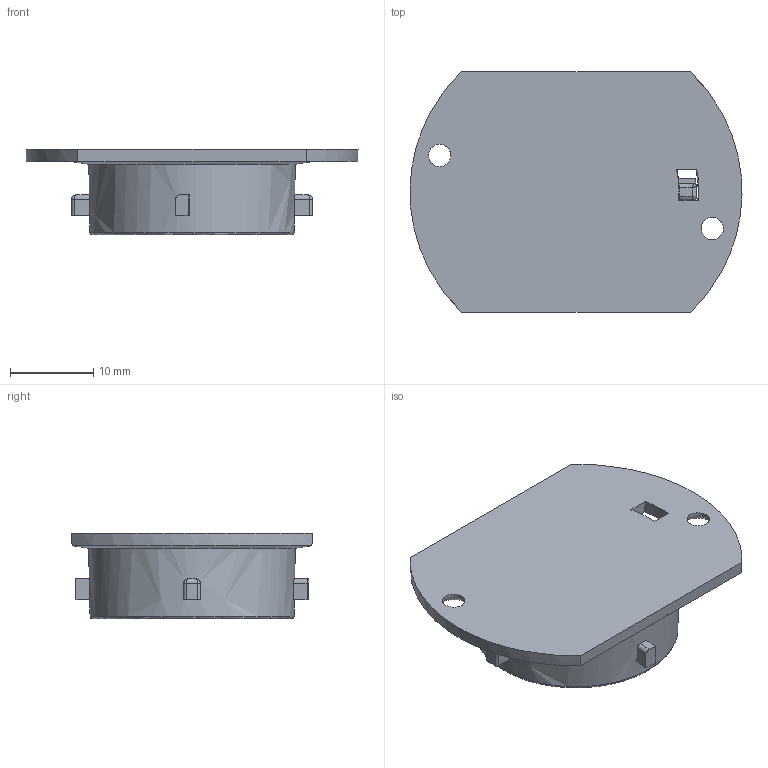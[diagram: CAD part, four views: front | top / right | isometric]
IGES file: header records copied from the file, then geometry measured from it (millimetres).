
Start section: C
Global section: file name: 023-70E-03.igs; native system: By Siemens PLM Incorporated; preprocessor: XPlus GENERIC/IGES 23.0.61; author: Author; organization: Title; date: 20240422.085023; units: millimetre
Bounding box: 39.99 x 29 x 10.3 mm (x, y, z)
Volume: 5816.7 mm3; surface area: 2975.1 mm2
Topology: 1 solids, 1 shells, 67 faces, 171 edges, 110 vertices
Faces by surface type: bspline 67
